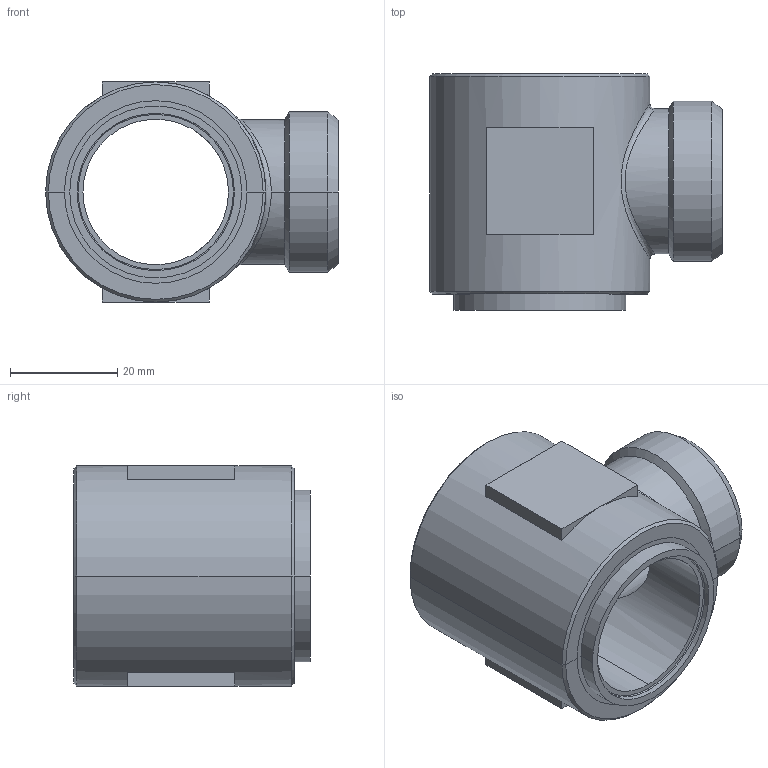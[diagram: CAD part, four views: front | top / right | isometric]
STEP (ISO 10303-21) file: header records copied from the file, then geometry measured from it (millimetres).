
FILE_DESCRIPTION((''),'2;1');
FILE_NAME('101310.stp','2007-10-30T15:40:48',(''),(''),'AutoCAD STEP 2000i','AutoCAD 2000i',', , ');
FILE_SCHEMA(('CONFIG_CONTROL_DESIGN'));
Length unit declared in the file: millimetre
Products named in the file (2): 101310.0; 1094#0
Assembly tree (1 placements, depth 2):
  101310.0
    1094#0
Bounding box: 54.5 x 44 x 41 mm (x, y, z)
Volume: 34176.8 mm3; surface area: 13209.2 mm2
Topology: 1 solids, 1 shells, 55 faces, 127 edges, 79 vertices
Faces by surface type: plane 20, cylinder 16, cone 14, bspline 5
Entity records: 2110 total; most frequent: CARTESIAN_POINT 725, DIRECTION 285, ORIENTED_EDGE 254, EDGE_CURVE 127, AXIS2_PLACEMENT_3D 115, VERTEX_POINT 79, EDGE_LOOP 64, CIRCLE 63
